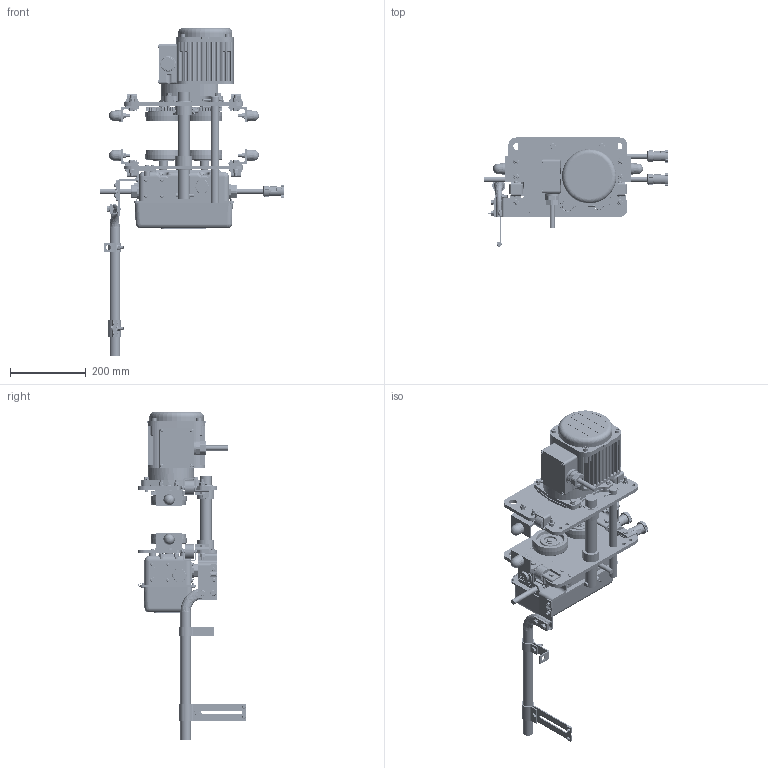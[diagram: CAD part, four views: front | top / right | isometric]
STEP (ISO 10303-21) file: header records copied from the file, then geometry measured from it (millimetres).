
FILE_DESCRIPTION (( 'STEP AP214' ), '1' );
FILE_NAME ('MR2003L.STEP', '2026-08-10T13:20:38', ( '' ), ( '' ), 'SwSTEP 2.0', 'SolidWorks 2026', '' );
FILE_SCHEMA (( 'AUTOMOTIVE_DESIGN' ));
Length unit declared in the file: inch
Products named in the file (86): MR1DS9203; MR1DS9493; MR1DS1211; MR2SHM10S9A8; ECP6916AA; MR1DS9248; M6SE010S9101; MS006010; MR1DS1211_Reversed; MR1DS9491; 6077801; M6F554010; 9047115_9047115; MS551010; 9009414-5_9009414-5; MR1DS1493; Socket Head Cap Screw_AM_B18.3.1M - 10 x 1.5 x 20 Hex SHCS -- 20NHX; M6FE010S9114; MR1DS9411; MR1DS9481; MR1DS9492; MS527010; MR1DS9631; MS1101010; 9047242_9047242; KITO-WASHER; MS1102010; MR1DS1481; MR1DS1301; 9012712_9012712; 9012711_9012711; E6F151003; ECP6912AA; 70131XX_7013101; ECP5924AH; MS161010; E6L614010S; ECP2108AC; MR1DS1491; MR1DS9325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
Assembly tree (216 placements, depth 5):
  MR2003L
    MR1DS5201
      MR1DS9201
      MR1DS9203  x2
      M6FE010S9113
    MR1DS5202
      MR1DS9202
      MR1DS9203  x2
      M6FE010S9114
    MSF115010_MSF115010
    MR1DS9634  x4
    9093330_9093330  x16
    9012711_9012711  x20
    9093424_9093424  x16
    MR1DS9631  x4
    MS006010  x4
    MR1DS1211_Reversed  x2
      MR1DS1211
      MR1DS9218
    MR1DS1211  x2
      MR1DS1211
      MR1DS9218
    MS1101010  x2
      M6SE010S9101
      6302Z BEARING
      9047242_9047242
    MS1102010  x2
      M6SE010S9102
      6302Z BEARING
      9047242_9047242
    MR1DS9131_MR1DS9131
    9009446_9009446  x2
    MS161010
    T6G156020
    9009432_9009432
    T3P154020_T3P154020
    9009414-5_9009414-5
    9047115_9047115  x4
    MS104010  x4
    6077801
      MR1DS93112
      MR1DS9324
      MR1DS9325
      MR1DS1301
      90912134  x4
      MS554010  x4
    9012513  x4
    MR1DS9248
    70131XX_7013101
      MR1DS9411
      MR1DS9401_1 - 8 TON & 10 L TON
      MR1DS9421
      MS554010  x12
      MR2DI2811
        ECP5924AH
        MS527010
        MR2DI1811
        ES558003  x4
      MS517010  x4
      MS551010  x4
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Bounding box: 489.64 x 287.54 x 867.53 mm (x, y, z)
Volume: 5544239.9 mm3; surface area: 1852245.7 mm2
Topology: 245 solids, 261 shells, 9568 faces, 25134 edges, 16395 vertices
Faces by surface type: plane 4574, cylinder 2722, cone 1364, torus 444, bspline 440, sphere 24
Entity records: 172309 total; most frequent: CARTESIAN_POINT 64952, ORIENTED_EDGE 21842, DIRECTION 20796, EDGE_CURVE 10923, AXIS2_PLACEMENT_3D 7646, VERTEX_POINT 7360, VECTOR 5504, LINE 5504
